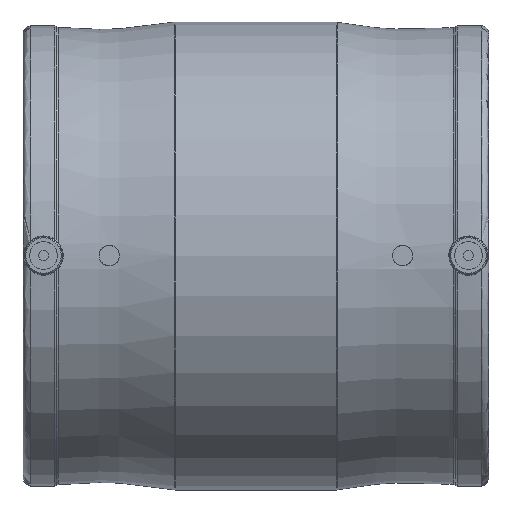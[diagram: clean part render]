
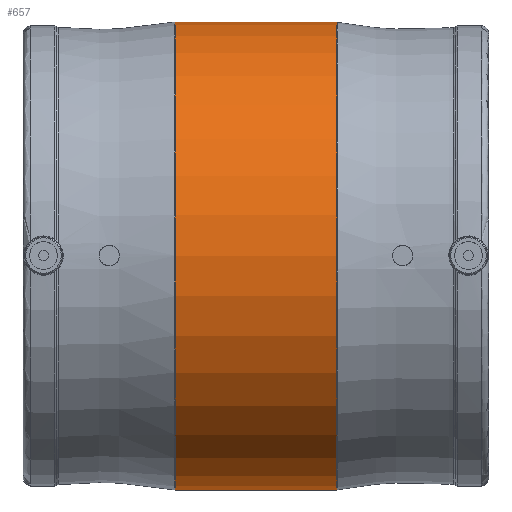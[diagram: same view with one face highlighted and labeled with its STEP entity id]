
A CAD part, top view. The second image highlights one B-rep face of the part: STEP entity #657.
In plain terms, the highlighted cylindrical face has radius 92.5 mm (diameter 185 mm), a full revolution.
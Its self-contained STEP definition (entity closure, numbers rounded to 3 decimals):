
#93=CYLINDRICAL_SURFACE('',#736,92.5);
#174=ORIENTED_EDGE('',*,*,#330,.T.);
#175=ORIENTED_EDGE('',*,*,#331,.T.);
#330=EDGE_CURVE('',#406,#406,#456,.F.);
#331=EDGE_CURVE('',#407,#407,#457,.T.);
#406=VERTEX_POINT('',#1187);
#407=VERTEX_POINT('',#1189);
#456=CIRCLE('',#737,92.5);
#457=CIRCLE('',#738,92.5);
#504=EDGE_LOOP('',(#174));
#505=EDGE_LOOP('',(#175));
#580=FACE_BOUND('',#504,.T.);
#581=FACE_BOUND('',#505,.T.);
#657=ADVANCED_FACE('',(#580,#581),#93,.T.);
#736=AXIS2_PLACEMENT_3D('',#1185,#863,#864);
#737=AXIS2_PLACEMENT_3D('',#1186,#865,#866);
#738=AXIS2_PLACEMENT_3D('',#1188,#867,#868);
#863=DIRECTION('',(-1.,0.,0.));
#864=DIRECTION('',(0.,0.,1.));
#865=DIRECTION('',(1.,0.,0.));
#866=DIRECTION('',(0.,0.,-1.));
#867=DIRECTION('',(1.,0.,0.));
#868=DIRECTION('',(0.,0.,-1.));
#1185=CARTESIAN_POINT('',(-60.,0.,0.));
#1186=CARTESIAN_POINT('',(31.904,0.,0.));
#1187=CARTESIAN_POINT('',(31.904,0.,-92.5));
#1188=CARTESIAN_POINT('',(-31.904,0.,0.));
#1189=CARTESIAN_POINT('',(-31.904,0.,-92.5));
